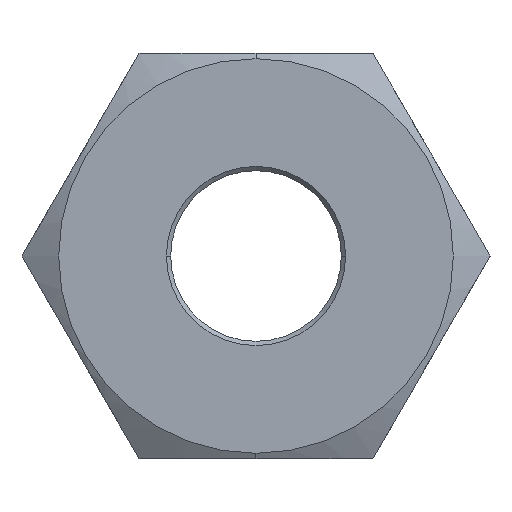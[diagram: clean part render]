
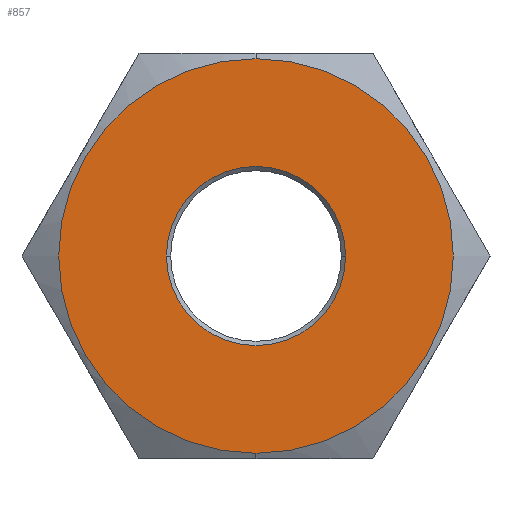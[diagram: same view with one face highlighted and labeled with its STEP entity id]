
A CAD part, left-side view. The second image highlights one B-rep face of the part: STEP entity #857.
In plain terms, the highlighted planar face has unit normal (-1, 0, 0) as drawn and (0, 0, 1) by its records, which use the part's own axes.
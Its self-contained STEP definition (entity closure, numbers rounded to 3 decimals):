
#141=CARTESIAN_POINT('',(9.25,0.0,8.5));
#142=VERTEX_POINT('',#141);
#151=CARTESIAN_POINT('',(-9.25,0.,8.5));
#152=VERTEX_POINT('',#151);
#153=CARTESIAN_POINT('',(0.,0.0,8.5));
#154=DIRECTION('',(0.0,0.0,1.0));
#155=DIRECTION('',(1.0,0.0,0.0));
#156=AXIS2_PLACEMENT_3D('',#153,#154,#155);
#157=CIRCLE('',#156,9.25);
#158=EDGE_CURVE('',#152,#142,#157,.T.);
#471=CARTESIAN_POINT('',(0.,4.2,8.5));
#472=VERTEX_POINT('',#471);
#480=CARTESIAN_POINT('',(0.,-4.2,8.5));
#481=VERTEX_POINT('',#480);
#488=CARTESIAN_POINT('',(0.,0.,8.5));
#489=DIRECTION('',(0.0,0.0,-1.0));
#490=DIRECTION('',(0.0,1.0,0.0));
#491=AXIS2_PLACEMENT_3D('',#488,#489,#490);
#492=CIRCLE('',#491,4.2);
#493=EDGE_CURVE('',#472,#481,#492,.T.);
#504=CARTESIAN_POINT('',(0.,0.,8.5));
#505=DIRECTION('',(0.0,0.0,-1.0));
#506=DIRECTION('',(0.0,1.0,0.0));
#507=AXIS2_PLACEMENT_3D('',#504,#505,#506);
#508=CIRCLE('',#507,4.2);
#509=EDGE_CURVE('',#481,#472,#508,.T.);
#728=CARTESIAN_POINT('',(0.,0.0,8.5));
#729=DIRECTION('',(0.0,0.0,1.0));
#730=DIRECTION('',(1.0,0.0,0.0));
#731=AXIS2_PLACEMENT_3D('',#728,#729,#730);
#732=CIRCLE('',#731,9.25);
#733=EDGE_CURVE('',#142,#152,#732,.T.);
#844=CARTESIAN_POINT('',(0.,0.,8.5));
#845=DIRECTION('',(0.0,0.0,1.0));
#846=DIRECTION('',(1.0,0.0,0.0));
#847=AXIS2_PLACEMENT_3D('',#844,#845,#846);
#848=PLANE('',#847);
#849=ORIENTED_EDGE('',*,*,#733,.T.);
#850=ORIENTED_EDGE('',*,*,#158,.T.);
#851=EDGE_LOOP('',(#849,#850));
#852=FACE_OUTER_BOUND('',#851,.T.);
#853=ORIENTED_EDGE('',*,*,#493,.T.);
#854=ORIENTED_EDGE('',*,*,#509,.T.);
#855=EDGE_LOOP('',(#853,#854));
#856=FACE_BOUND('',#855,.T.);
#857=ADVANCED_FACE('',(#852,#856),#848,.T.);
